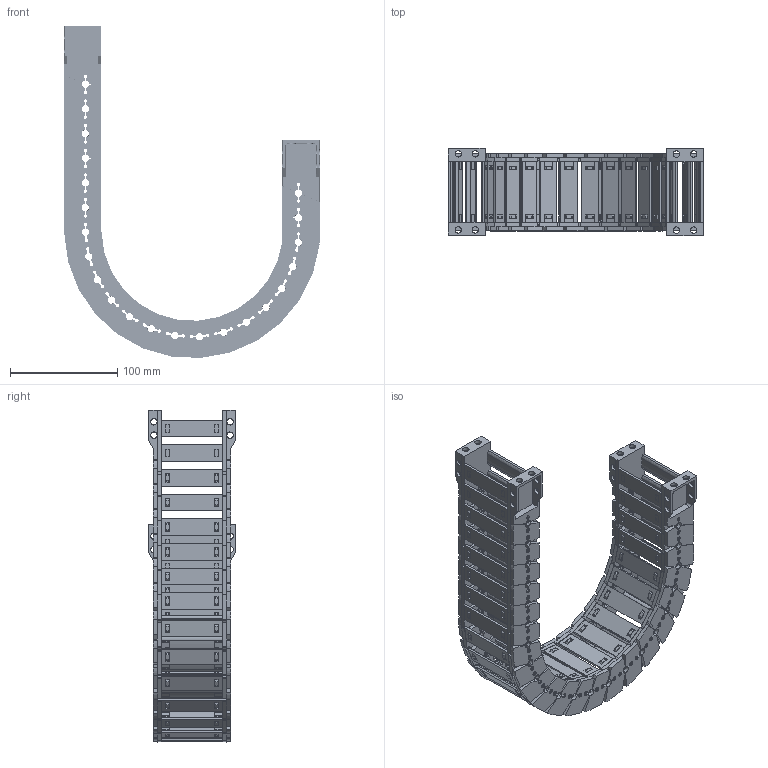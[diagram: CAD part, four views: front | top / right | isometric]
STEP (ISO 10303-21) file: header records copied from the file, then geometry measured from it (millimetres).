
FILE_DESCRIPTION(/* description */ (''),/* implementation_level */ '2;1');
FILE_NAME(/* name */ 'JY28-57-R100.stp',/* time_stamp */ '2026-06-03T15:32:05+08:00',/* author */ (''),/* organization */ (''),/* preprocessor_version */ 'ST-DEVELOPER v19.4',/* originating_system */ 'SIEMENS PLM Software NX2306.5001',/* authorisation */ '');
FILE_SCHEMA (('AP203_CONFIGURATION_CONTROLLED_3D_DESIGN_OF_MECHANICAL_PARTS_AND_ASSEMBLIES_MIM_LF { 1 0 10303 403 2 1 2}'));
Products named in the file (1): 简化图纸_objects
Bounding box: 238.21 x 81 x 309.61 mm (x, y, z)
Volume: 386164.2 mm3; surface area: 281720.4 mm2
Topology: 86 solids, 86 shells, 7166 faces, 20384 edges, 13324 vertices
Faces by surface type: plane 4694, cone 1300, cylinder 1128, bspline 42, torus 2
Full cylindrical faces by diameter (mm): 6 x24
Entity records: 242416 total; most frequent: CARTESIAN_POINT 53852, ORIENTED_EDGE 40676, DIRECTION 38192, EDGE_CURVE 20338, LINE 13462, VECTOR 13462, VERTEX_POINT 13302, AXIS2_PLACEMENT_3D 12365
